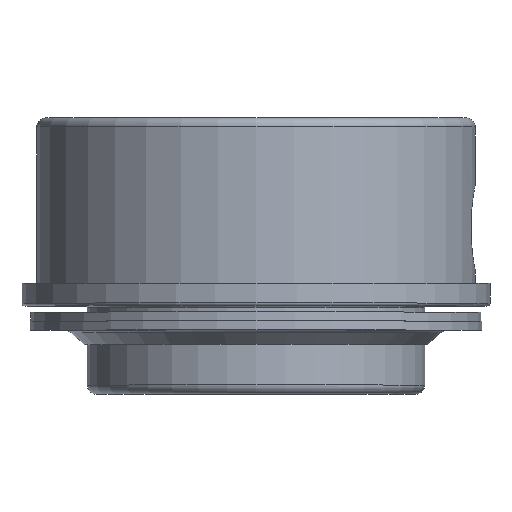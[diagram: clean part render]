
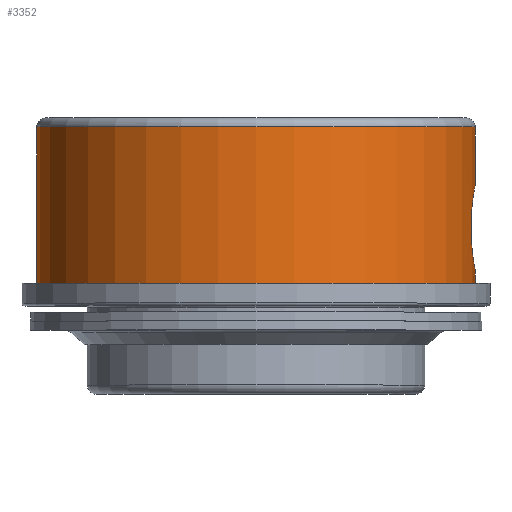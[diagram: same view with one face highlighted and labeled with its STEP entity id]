
A CAD part, top view. The second image highlights one B-rep face of the part: STEP entity #3352.
In plain terms, the highlighted cylindrical face has radius 6.185 mm (diameter 12.37 mm), a partial arc.
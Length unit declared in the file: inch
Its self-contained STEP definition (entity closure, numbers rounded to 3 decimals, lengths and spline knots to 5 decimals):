
#43 = VERTEX_POINT ( 'NONE', #797 ) ;
#176 = CARTESIAN_POINT ( 'NONE',  ( 0.24242, 0.32117, 0.02358 ) ) ;
#244 = CARTESIAN_POINT ( 'NONE',  ( 0.23897, 0.362, 0.04675 ) ) ;
#298 = ORIENTED_EDGE ( 'NONE', *, *, #1738, .T. ) ;
#340 = CARTESIAN_POINT ( 'NONE',  ( 0.2435, 0.3, 0. ) ) ;
#376 = DIRECTION ( 'NONE',  ( 0., 1., 0. ) ) ;
#404 = CARTESIAN_POINT ( 'NONE',  ( 0., 0.3, 0. ) ) ;
#413 = VERTEX_POINT ( 'NONE', #854 ) ;
#460 = B_SPLINE_CURVE_WITH_KNOTS ( 'NONE', 3,
 ( #1139, #4312, #4674, #176, #2068, #684, #5149, #3826, #5170, #3340 ),
 .UNSPECIFIED., .F., .F.,
 ( 4, 2, 2, 2, 4 ),
 ( 0.00186, 0.00233, 0.00279, 0.00326, 0.00372 ),
 .UNSPECIFIED. ) ;
#684 = CARTESIAN_POINT ( 'NONE',  ( 0.24065, 0.3333, 0.03741 ) ) ;
#712 = CARTESIAN_POINT ( 'NONE',  ( 0.2435, 0.484, 0. ) ) ;
#746 = CARTESIAN_POINT ( 'NONE',  ( 0.2435, 0.474, 0. ) ) ;
#797 = CARTESIAN_POINT ( 'NONE',  ( 0.2435, 0.40875, 0. ) ) ;
#822 = DIRECTION ( 'NONE',  ( 0., 1., 0. ) ) ;
#854 = CARTESIAN_POINT ( 'NONE',  ( -0.2435, 0.474, 0. ) ) ;
#901 = EDGE_CURVE ( 'NONE', #2738, #413, #3452, .T. ) ;
#949 = AXIS2_PLACEMENT_3D ( 'NONE', #5302, #1249, #4442 ) ;
#974 = CIRCLE ( 'NONE', #1925, 0.2435 ) ;
#1079 = B_SPLINE_CURVE_WITH_KNOTS ( 'NONE', 3,
 ( #1693, #5316, #1260, #2180, #5791, #3536, #3097, #4899, #2088, #2657 ),
 .UNSPECIFIED., .F., .F.,
 ( 4, 2, 2, 2, 4 ),
 ( 0.00372, 0.00419, 0.00465, 0.00512, 0.00558 ),
 .UNSPECIFIED. ) ;
#1139 = CARTESIAN_POINT ( 'NONE',  ( 0.2435, 0.31525, 0. ) ) ;
#1169 = CARTESIAN_POINT ( 'NONE',  ( -0.2435, 0.3, 0. ) ) ;
#1215 = EDGE_LOOP ( 'NONE', ( #4383, #1266, #3525, #298, #3841, #5477, #1732 ) ) ;
#1249 = DIRECTION ( 'NONE',  ( 0., 1., 0. ) ) ;
#1260 = CARTESIAN_POINT ( 'NONE',  ( 0.23922, 0.37428, 0.04552 ) ) ;
#1266 = ORIENTED_EDGE ( 'NONE', *, *, #3401, .T. ) ;
#1364 = EDGE_CURVE ( 'NONE', #5306, #1442, #460, .T. ) ;
#1442 = VERTEX_POINT ( 'NONE', #244 ) ;
#1693 = CARTESIAN_POINT ( 'NONE',  ( 0.23897, 0.362, 0.04675 ) ) ;
#1732 = ORIENTED_EDGE ( 'NONE', *, *, #901, .F. ) ;
#1738 = EDGE_CURVE ( 'NONE', #1442, #43, #1079, .T. ) ;
#1925 = AXIS2_PLACEMENT_3D ( 'NONE', #3903, #4021, #3487 ) ;
#1967 = VERTEX_POINT ( 'NONE', #746 ) ;
#2068 = CARTESIAN_POINT ( 'NONE',  ( 0.24184, 0.3246, 0.02872 ) ) ;
#2088 = CARTESIAN_POINT ( 'NONE',  ( 0.2435, 0.40875, 0.00618 ) ) ;
#2180 = CARTESIAN_POINT ( 'NONE',  ( 0.24006, 0.38553, 0.04085 ) ) ;
#2256 = VECTOR ( 'NONE', #2989, 39.37008 ) ;
#2292 = CARTESIAN_POINT ( 'NONE',  ( 0.2435, 0.484, 0. ) ) ;
#2523 = VERTEX_POINT ( 'NONE', #340 ) ;
#2657 = CARTESIAN_POINT ( 'NONE',  ( 0.2435, 0.40875, 0. ) ) ;
#2699 = AXIS2_PLACEMENT_3D ( 'NONE', #404, #376, #5282 ) ;
#2738 = VERTEX_POINT ( 'NONE', #1169 ) ;
#2989 = DIRECTION ( 'NONE',  ( 0., 1., 0. ) ) ;
#3097 = CARTESIAN_POINT ( 'NONE',  ( 0.24242, 0.40282, 0.0236 ) ) ;
#3340 = CARTESIAN_POINT ( 'NONE',  ( 0.23897, 0.362, 0.04675 ) ) ;
#3352 = ADVANCED_FACE ( 'NONE', ( #3439 ), #3490, .T. ) ;
#3401 = EDGE_CURVE ( 'NONE', #2523, #5306, #4123, .T. ) ;
#3439 = FACE_OUTER_BOUND ( 'NONE', #1215, .T. ) ;
#3452 = LINE ( 'NONE', #4313, #2256 ) ;
#3487 = DIRECTION ( 'NONE',  ( 1., 0., 0. ) ) ;
#3490 = CYLINDRICAL_SURFACE ( 'NONE', #949, 0.2435 ) ;
#3525 = ORIENTED_EDGE ( 'NONE', *, *, #1364, .T. ) ;
#3536 = CARTESIAN_POINT ( 'NONE',  ( 0.24183, 0.39936, 0.02876 ) ) ;
#3764 = EDGE_CURVE ( 'NONE', #43, #1967, #5765, .T. ) ;
#3826 = CARTESIAN_POINT ( 'NONE',  ( 0.23922, 0.34975, 0.04553 ) ) ;
#3841 = ORIENTED_EDGE ( 'NONE', *, *, #3764, .T. ) ;
#3903 = CARTESIAN_POINT ( 'NONE',  ( 0., 0.474, 0. ) ) ;
#4021 = DIRECTION ( 'NONE',  ( 0., -1., 0. ) ) ;
#4029 = CARTESIAN_POINT ( 'NONE',  ( 0.2435, 0.31525, 0. ) ) ;
#4123 = LINE ( 'NONE', #2292, #5407 ) ;
#4312 = CARTESIAN_POINT ( 'NONE',  ( 0.2435, 0.31525, 0.00611 ) ) ;
#4313 = CARTESIAN_POINT ( 'NONE',  ( -0.2435, 0.484, 0. ) ) ;
#4383 = ORIENTED_EDGE ( 'NONE', *, *, #5333, .T. ) ;
#4442 = DIRECTION ( 'NONE',  ( -1., 0., 0. ) ) ;
#4454 = VECTOR ( 'NONE', #822, 39.37008 ) ;
#4674 = CARTESIAN_POINT ( 'NONE',  ( 0.24326, 0.31647, 0.01224 ) ) ;
#4899 = CARTESIAN_POINT ( 'NONE',  ( 0.24326, 0.40753, 0.01226 ) ) ;
#4987 = DIRECTION ( 'NONE',  ( 0., 1., 0. ) ) ;
#5147 = CIRCLE ( 'NONE', #2699, 0.2435 ) ;
#5149 = CARTESIAN_POINT ( 'NONE',  ( 0.24006, 0.33845, 0.04084 ) ) ;
#5170 = CARTESIAN_POINT ( 'NONE',  ( 0.23897, 0.35589, 0.04675 ) ) ;
#5282 = DIRECTION ( 'NONE',  ( -1., 0., 0. ) ) ;
#5302 = CARTESIAN_POINT ( 'NONE',  ( 0., 0.484, 0. ) ) ;
#5306 = VERTEX_POINT ( 'NONE', #4029 ) ;
#5316 = CARTESIAN_POINT ( 'NONE',  ( 0.23897, 0.36811, 0.04675 ) ) ;
#5333 = EDGE_CURVE ( 'NONE', #2738, #2523, #5147, .T. ) ;
#5407 = VECTOR ( 'NONE', #4987, 39.37008 ) ;
#5477 = ORIENTED_EDGE ( 'NONE', *, *, #5631, .T. ) ;
#5631 = EDGE_CURVE ( 'NONE', #1967, #413, #974, .T. ) ;
#5765 = LINE ( 'NONE', #712, #4454 ) ;
#5791 = CARTESIAN_POINT ( 'NONE',  ( 0.24065, 0.39073, 0.03738 ) ) ;
